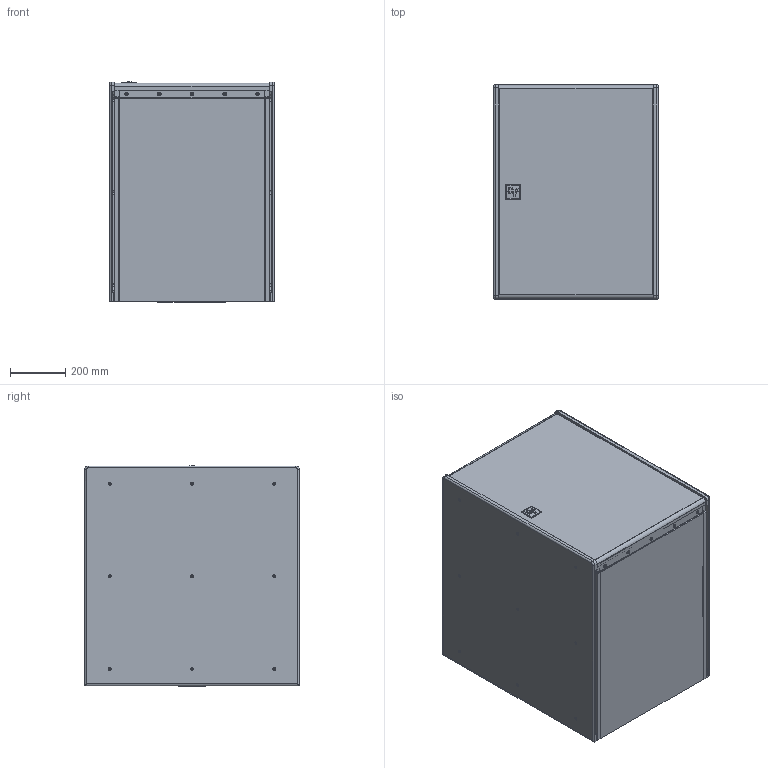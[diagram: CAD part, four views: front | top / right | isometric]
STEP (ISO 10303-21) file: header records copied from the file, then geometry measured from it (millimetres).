
FILE_DESCRIPTION (( 'STEP AP214' ), '1' );
FILE_NAME ('EVA-2151D Bottom Element With Cover Plate 3D CAD.STEP', '2023-03-13T03:44:56', ( '' ), ( '' ), 'SwSTEP 2.0', 'SolidWorks 2021', '' );
FILE_SCHEMA (( 'AUTOMOTIVE_DESIGN' ));
Length unit declared in the file: millimetre
Products named in the file (9): EVA-2151D Side Plate; EVA-2151D Cover Plate; EVA-2151D Back Plate; EVA-2151D Top and Bottom Plate; EVA-2151D Rear Panel; EVA-2151D EV Logo; EVA-2151D Enclosure Assembly ; EVA-2151D Grille; EVA-2151D Bottom Element With Cover Plate 3D CAD
Assembly tree (11 placements, depth 3):
  EVA-2151D Bottom Element With Cover Plate 3D CAD
    EVA-2151D Enclosure Assembly 
      EVA-2151D Back Plate
      EVA-2151D Top and Bottom Plate  x2
      EVA-2151D Side Plate  x2
    EVA-2151D EV Logo
    EVA-2151D Grille
    EVA-2151D Rear Panel
    EVA-2151D Cover Plate  x2
Bounding box: 594.82 x 775.21 x 793.93 mm (x, y, z)
Volume: 62569678 mm3; surface area: 8883158.4 mm2
Topology: 10 solids, 10 shells, 887 faces, 2358 edges, 1497 vertices
Faces by surface type: plane 348, cylinder 280, bspline 127, cone 108, torus 24
Entity records: 23336 total; most frequent: CARTESIAN_POINT 8090, ORIENTED_EDGE 3266, DIRECTION 2849, EDGE_CURVE 1633, VERTEX_POINT 1027, AXIS2_PLACEMENT_3D 999, LINE 851, VECTOR 851
